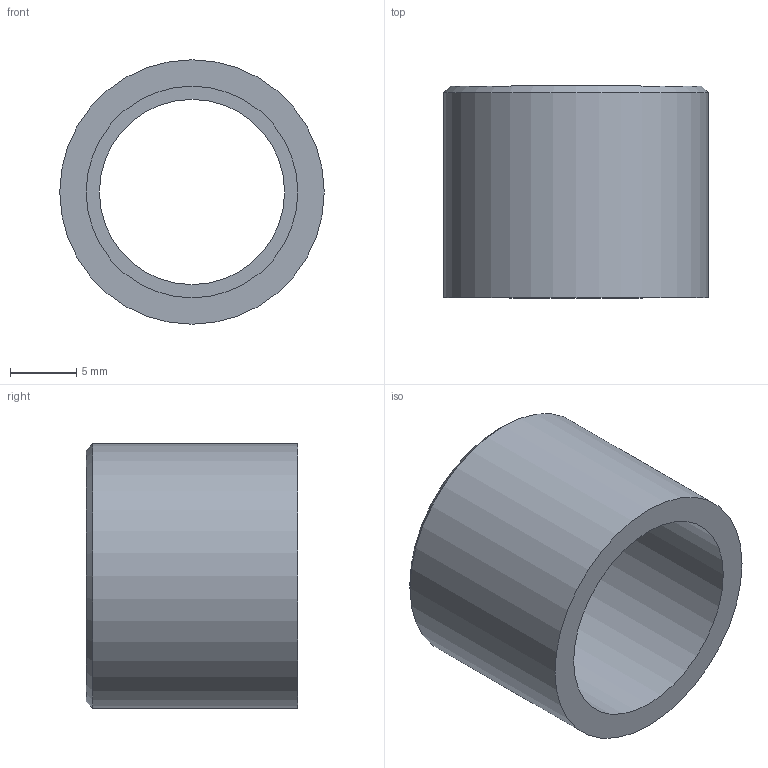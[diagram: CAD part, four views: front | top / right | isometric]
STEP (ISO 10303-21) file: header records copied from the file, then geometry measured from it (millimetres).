
FILE_DESCRIPTION(/* description */ ('PVC riduzione corta incollaggio metrica'),/* implementation_level */ '2;1');
FILE_NAME(/* name */ 'C:\Users\POLYPIPE\Desktop\DATASET INVENTOR\LIBRERIA EFFAST\RACCORDI 3DxWEB\RDR\3D_RDRRCD\3D_RDRRCD020A.stp',/* time_stamp */ '2018-01-19T15:28:21+01:00',/* author */ ('POLYPIPE'),/* organization */ ('Polypipe Italia s.r.l.'),/* preprocessor_version */ 'ST-DEVELOPER v16.1',/* originating_system */ 'Autodesk Inventor 2016',/* authorisation */ '');
FILE_SCHEMA (('CONFIG_CONTROL_DESIGN'));
Length unit declared in the file: millimetre
Products named in the file (1): 3D_RDRRCD
Bounding box: 20 x 16 x 20 mm (x, y, z)
Volume: 1872 mm3; surface area: 2079.8 mm2
Topology: 1 solids, 1 shells, 8 faces, 13 edges, 8 vertices
Faces by surface type: plane 3, cylinder 3, cone 2
Full cylindrical faces by diameter (mm): 14 x1, 16 x1, 20 x1
Entity records: 192 total; most frequent: DIRECTION 34, CARTESIAN_POINT 25, AXIS2_PLACEMENT_3D 17, EDGE_LOOP 16, ORIENTED_EDGE 16, FACE_BOUND 8, FACE_OUTER_BOUND 8, CIRCLE 8
